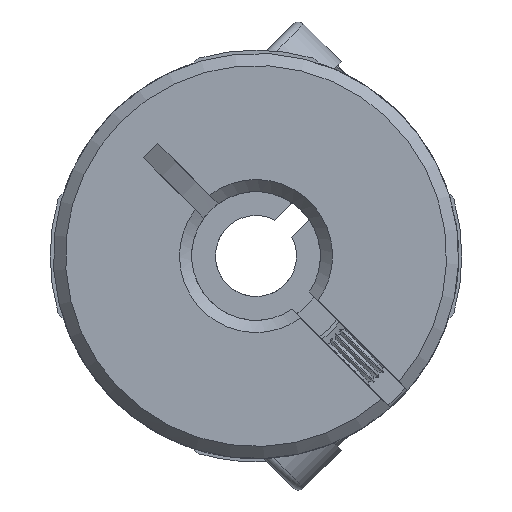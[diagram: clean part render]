
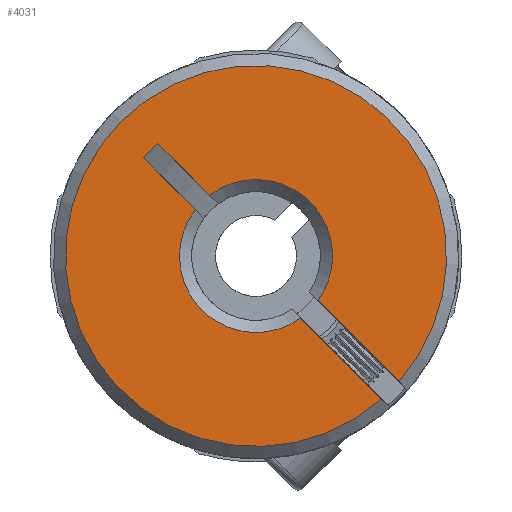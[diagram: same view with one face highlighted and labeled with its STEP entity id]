
A CAD part, front view. The second image highlights one B-rep face of the part: STEP entity #4031.
In plain terms, the highlighted planar face has unit normal (0, -1, 0).
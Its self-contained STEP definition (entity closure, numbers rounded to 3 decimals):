
#510 = CARTESIAN_POINT ( 'NONE',  ( -4.842, -12.6, 5.549 ) ) ;
#884 = EDGE_CURVE ( 'NONE', #5583, #2095, #10140, .T. ) ;
#1191 = EDGE_CURVE ( 'NONE', #10941, #2095, #2545, .T. ) ;
#1305 = EDGE_CURVE ( 'NONE', #11477, #10941, #2058, .T. ) ;
#1453 = DIRECTION ( 'NONE',  ( 0., 1., 0. ) ) ;
#1605 = CARTESIAN_POINT ( 'NONE',  ( 0., -12.6, 0. ) ) ;
#2058 = LINE ( 'NONE', #5063, #4296 ) ;
#2095 = VERTEX_POINT ( 'NONE', #11496 ) ;
#2097 = PLANE ( 'NONE',  #5196 ) ;
#2137 = CARTESIAN_POINT ( 'NONE',  ( 0., -12.6, 0. ) ) ;
#2222 = CARTESIAN_POINT ( 'NONE',  ( 342.528, -12.6, 364.579 ) ) ;
#2418 = LINE ( 'NONE', #9991, #6072 ) ;
#2421 = VERTEX_POINT ( 'NONE', #4054 ) ;
#2485 = CARTESIAN_POINT ( 'NONE',  ( 2.629, -12.6, -1.78 ) ) ;
#2545 = LINE ( 'NONE', #5553, #5398 ) ;
#2586 = CIRCLE ( 'NONE', #5167, 3.775 ) ;
#2643 = LINE ( 'NONE', #2485, #10070 ) ;
#2898 = AXIS2_PLACEMENT_3D ( 'NONE', #2137, #5152, #10179 ) ;
#3335 = CARTESIAN_POINT ( 'NONE',  ( -5.549, -12.6, 4.842 ) ) ;
#3517 = DIRECTION ( 'NONE',  ( -0.707, 0., 0.707 ) ) ;
#3565 = DIRECTION ( 'NONE',  ( 0.707, 0., -0.707 ) ) ;
#3601 = VERTEX_POINT ( 'NONE', #11569 ) ;
#4031 = ADVANCED_FACE ( 'NONE', ( #12032 ), #2097, .F. ) ;
#4054 = CARTESIAN_POINT ( 'NONE',  ( -2.292, -12.6, 2.999 ) ) ;
#4296 = VECTOR ( 'NONE', #7150, 1000. ) ;
#4463 = ORIENTED_EDGE ( 'NONE', *, *, #13078, .T. ) ;
#4765 = DIRECTION ( 'NONE',  ( 0., 1., 0. ) ) ;
#4866 = VERTEX_POINT ( 'NONE', #7426 ) ;
#5063 = CARTESIAN_POINT ( 'NONE',  ( -4.842, -12.6, 5.549 ) ) ;
#5152 = DIRECTION ( 'NONE',  ( 0., -1., 0. ) ) ;
#5167 = AXIS2_PLACEMENT_3D ( 'NONE', #7671, #1453, #3565 ) ;
#5196 = AXIS2_PLACEMENT_3D ( 'NONE', #2222, #5951, #10356 ) ;
#5248 = CARTESIAN_POINT ( 'NONE',  ( 5.657, -12.6, -4.95 ) ) ;
#5319 = ORIENTED_EDGE ( 'NONE', *, *, #12735, .F. ) ;
#5398 = VECTOR ( 'NONE', #5902, 1000. ) ;
#5553 = CARTESIAN_POINT ( 'NONE',  ( 4.95, -12.6, -5.657 ) ) ;
#5583 = VERTEX_POINT ( 'NONE', #7836 ) ;
#5673 = ORIENTED_EDGE ( 'NONE', *, *, #1191, .F. ) ;
#5902 = DIRECTION ( 'NONE',  ( 0.707, 0., -0.707 ) ) ;
#5951 = DIRECTION ( 'NONE',  ( 0., 1., 0. ) ) ;
#6072 = VECTOR ( 'NONE', #11017, 1000. ) ;
#7150 = DIRECTION ( 'NONE',  ( -0.707, 0., -0.707 ) ) ;
#7426 = CARTESIAN_POINT ( 'NONE',  ( 6.209, -12.6, -7.058 ) ) ;
#7453 = EDGE_CURVE ( 'NONE', #12792, #3601, #2643, .T. ) ;
#7671 = CARTESIAN_POINT ( 'NONE',  ( 0., -12.6, 0. ) ) ;
#7719 = ORIENTED_EDGE ( 'NONE', *, *, #7734, .T. ) ;
#7734 = EDGE_CURVE ( 'NONE', #11477, #2421, #11173, .T. ) ;
#7836 = CARTESIAN_POINT ( 'NONE',  ( 2.211, -12.6, -3.06 ) ) ;
#8110 = ORIENTED_EDGE ( 'NONE', *, *, #9859, .T. ) ;
#8312 = AXIS2_PLACEMENT_3D ( 'NONE', #1605, #4765, #11819 ) ;
#9254 = EDGE_LOOP ( 'NONE', ( #7719, #4463, #11630, #8110, #5319, #13131, #5673, #9630 ) ) ;
#9286 = VECTOR ( 'NONE', #11456, 1000. ) ;
#9395 = CIRCLE ( 'NONE', #2898, 9.4 ) ;
#9630 = ORIENTED_EDGE ( 'NONE', *, *, #1305, .F. ) ;
#9859 = EDGE_CURVE ( 'NONE', #12792, #4866, #9395, .T. ) ;
#9991 = CARTESIAN_POINT ( 'NONE',  ( 1.78, -12.6, -2.629 ) ) ;
#10070 = VECTOR ( 'NONE', #3517, 1000. ) ;
#10140 = CIRCLE ( 'NONE', #8312, 3.775 ) ;
#10179 = DIRECTION ( 'NONE',  ( 0.707, 0., -0.707 ) ) ;
#10356 = DIRECTION ( 'NONE',  ( 0.707, 0., -0.707 ) ) ;
#10941 = VERTEX_POINT ( 'NONE', #3335 ) ;
#11017 = DIRECTION ( 'NONE',  ( 0.707, 0., -0.707 ) ) ;
#11173 = LINE ( 'NONE', #5248, #9286 ) ;
#11456 = DIRECTION ( 'NONE',  ( 0.707, 0., -0.707 ) ) ;
#11477 = VERTEX_POINT ( 'NONE', #510 ) ;
#11496 = CARTESIAN_POINT ( 'NONE',  ( -2.999, -12.6, 2.292 ) ) ;
#11569 = CARTESIAN_POINT ( 'NONE',  ( 3.06, -12.6, -2.211 ) ) ;
#11630 = ORIENTED_EDGE ( 'NONE', *, *, #7453, .F. ) ;
#11819 = DIRECTION ( 'NONE',  ( 0.707, 0., -0.707 ) ) ;
#12032 = FACE_OUTER_BOUND ( 'NONE', #9254, .T. ) ;
#12735 = EDGE_CURVE ( 'NONE', #5583, #4866, #2418, .T. ) ;
#12792 = VERTEX_POINT ( 'NONE', #13194 ) ;
#13078 = EDGE_CURVE ( 'NONE', #2421, #3601, #2586, .T. ) ;
#13131 = ORIENTED_EDGE ( 'NONE', *, *, #884, .T. ) ;
#13194 = CARTESIAN_POINT ( 'NONE',  ( 7.058, -12.6, -6.209 ) ) ;
